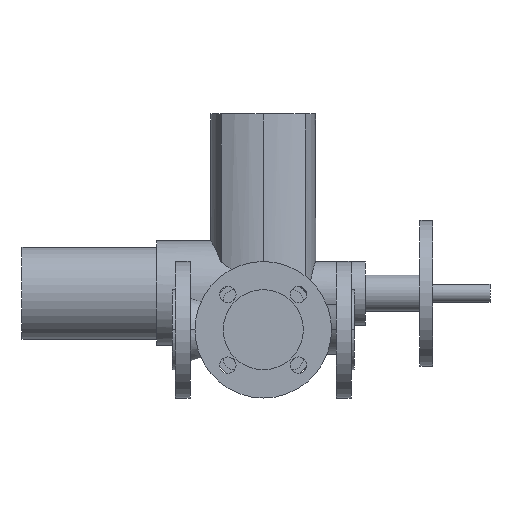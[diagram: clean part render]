
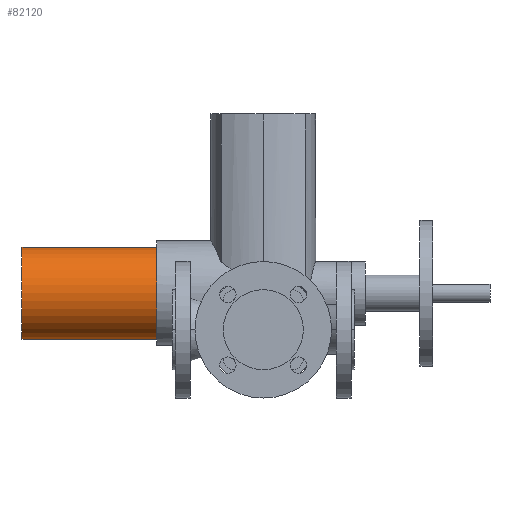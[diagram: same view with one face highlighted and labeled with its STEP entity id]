
A CAD part, front view. The second image highlights one B-rep face of the part: STEP entity #82120.
In plain terms, the highlighted cylindrical face has radius 50.5 mm (diameter 101 mm), a partial arc.
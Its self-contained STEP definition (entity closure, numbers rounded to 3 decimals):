
#41200=CARTESIAN_POINT('',(-91.,444.5,40.));
#41210=DIRECTION('',(1.,0.,0.));
#41220=DIRECTION('',(0.,0.,-1.));
#41230=AXIS2_PLACEMENT_3D('',#41200,#41210,#41220);
#41240=CYLINDRICAL_SURFACE('',#41230,50.5);
#41250=CARTESIAN_POINT('',(-91.,444.5,-10.5));
#41260=DIRECTION('',(1.,0.,0.));
#41270=VECTOR('',#41260,1.);
#41280=LINE('',#41250,#41270);
#41290=CARTESIAN_POINT('',(-165.,444.5,-10.5));
#41300=VERTEX_POINT('',#41290);
#41310=CARTESIAN_POINT('',(-17.,444.5,-10.5));
#41320=VERTEX_POINT('',#41310);
#41330=EDGE_CURVE('',#41300,#41320,#41280,.T.);
#41350=CARTESIAN_POINT('',(-17.,444.5,40.));
#41360=DIRECTION('',(-1.,0.,0.));
#41370=DIRECTION('',(0.,0.,-1.));
#41380=AXIS2_PLACEMENT_3D('',#41350,#41360,#41370);
#41390=CIRCLE('',#41380,50.5);
#41400=CARTESIAN_POINT('',(-17.,444.5,90.5));
#41410=VERTEX_POINT('',#41400);
#41440=CARTESIAN_POINT('',(-91.,444.5,90.5));
#41450=DIRECTION('',(1.,0.,0.));
#41460=VECTOR('',#41450,1.);
#41470=LINE('',#41440,#41460);
#41480=CARTESIAN_POINT('',(-165.,444.5,90.5));
#41490=VERTEX_POINT('',#41480);
#41500=EDGE_CURVE('',#41490,#41410,#41470,.T.);
#41520=CARTESIAN_POINT('',(-165.,444.5,40.));
#41530=DIRECTION('',(-1.,0.,0.));
#41540=DIRECTION('',(0.,0.,-1.));
#41550=AXIS2_PLACEMENT_3D('',#41520,#41530,#41540);
#41560=CIRCLE('',#41550,50.5);
#60980=EDGE_CURVE('',#41320,#41410,#41390,.T.);
#61370=EDGE_CURVE('',#41300,#41490,#41560,.T.);
#82060=ORIENTED_EDGE('',*,*,#41330,.T.);
#82070=ORIENTED_EDGE('',*,*,#61370,.F.);
#82080=ORIENTED_EDGE('',*,*,#41500,.F.);
#82090=ORIENTED_EDGE('',*,*,#60980,.T.);
#82100=EDGE_LOOP('',(#82090,#82080,#82070,#82060));
#82110=FACE_OUTER_BOUND('',#82100,.T.);
#82120=ADVANCED_FACE('',(#82110),#41240,.T.);
